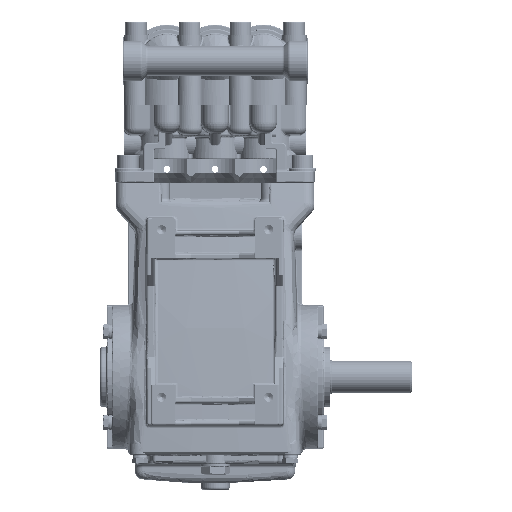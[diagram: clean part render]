
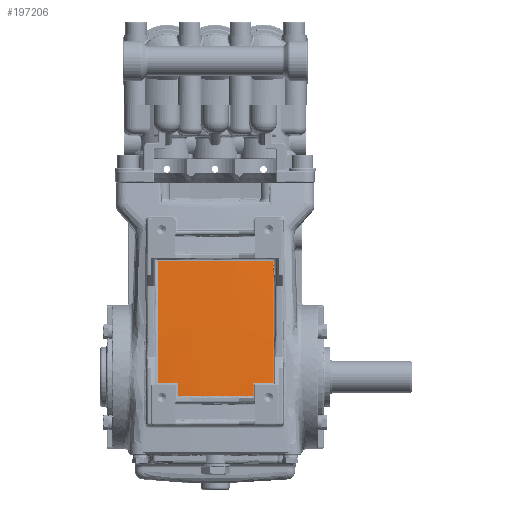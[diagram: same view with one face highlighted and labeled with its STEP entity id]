
A CAD part, front view. The second image highlights one B-rep face of the part: STEP entity #197206.
In plain terms, the highlighted spherical face has radius 1000 mm.
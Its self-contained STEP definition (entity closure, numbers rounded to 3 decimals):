
#61386 = EDGE_CURVE ( 'NONE', #67858, #68576, #101114, .T. ) ;
#61392 = EDGE_CURVE ( 'NONE', #67904, #67858, #101118, .T. ) ;
#61397 = EDGE_CURVE ( 'NONE', #68576, #68575, #101121, .T. ) ;
#61401 = EDGE_CURVE ( 'NONE', #68575, #68572, #101124, .T. ) ;
#61405 = EDGE_CURVE ( 'NONE', #68572, #68571, #101128, .T. ) ;
#61409 = EDGE_CURVE ( 'NONE', #68571, #68598, #101131, .T. ) ;
#61411 = EDGE_CURVE ( 'NONE', #68598, #68581, #101134, .T. ) ;
#61413 = EDGE_CURVE ( 'NONE', #68581, #67904, #101138, .T. ) ;
#67858 = VERTEX_POINT ( 'NONE', #195685 ) ;
#67904 = VERTEX_POINT ( 'NONE', #195722 ) ;
#68571 = VERTEX_POINT ( 'NONE', #198153 ) ;
#68572 = VERTEX_POINT ( 'NONE', #198155 ) ;
#68575 = VERTEX_POINT ( 'NONE', #198160 ) ;
#68576 = VERTEX_POINT ( 'NONE', #198162 ) ;
#68581 = VERTEX_POINT ( 'NONE', #198171 ) ;
#68598 = VERTEX_POINT ( 'NONE', #198201 ) ;
#68827 = ORIENTED_EDGE ( 'NONE', *, *, #61392, .T. ) ;
#68828 = ORIENTED_EDGE ( 'NONE', *, *, #61397, .T. ) ;
#68829 = ORIENTED_EDGE ( 'NONE', *, *, #61386, .T. ) ;
#68830 = ORIENTED_EDGE ( 'NONE', *, *, #61401, .T. ) ;
#68831 = ORIENTED_EDGE ( 'NONE', *, *, #61405, .T. ) ;
#68832 = ORIENTED_EDGE ( 'NONE', *, *, #61409, .T. ) ;
#68833 = ORIENTED_EDGE ( 'NONE', *, *, #61411, .T. ) ;
#68834 = ORIENTED_EDGE ( 'NONE', *, *, #61413, .T. ) ;
#72200 = AXIS2_PLACEMENT_3D ( 'NONE', #96840, #96842, #96844 ) ;
#72214 = FACE_OUTER_BOUND ( 'NONE', #241111, .T. ) ;
#72218 = SPHERICAL_SURFACE ( 'NONE', #72200, 1000. ) ;
#96840 = CARTESIAN_POINT ( 'NONE',  ( 0., 938.4, -238. ) ) ;
#96842 = DIRECTION ( 'NONE',  ( 0., 0.259, 0.966 ) ) ;
#96844 = DIRECTION ( 'NONE',  ( 0., -0.966, 0.259 ) ) ;
#101114 = CIRCLE ( 'NONE', #149855, 999.079 ) ;
#101118 = CIRCLE ( 'NONE', #149890, 996.047 ) ;
#101121 = CIRCLE ( 'NONE', #149889, 983.732 ) ;
#101124 = CIRCLE ( 'NONE', #149888, 999.079 ) ;
#101128 = CIRCLE ( 'NONE', #149887, 996.047 ) ;
#101131 = CIRCLE ( 'NONE', #149892, 999.609 ) ;
#101134 = CIRCLE ( 'NONE', #149894, 996.887 ) ;
#101138 = CIRCLE ( 'NONE', #149896, 999.609 ) ;
#149855 = AXIS2_PLACEMENT_3D ( 'NONE', #156364, #156365, #156366 ) ;
#149887 = AXIS2_PLACEMENT_3D ( 'NONE', #156376, #156377, #156378 ) ;
#149888 = AXIS2_PLACEMENT_3D ( 'NONE', #156373, #156374, #156375 ) ;
#149889 = AXIS2_PLACEMENT_3D ( 'NONE', #156370, #156371, #156372 ) ;
#149890 = AXIS2_PLACEMENT_3D ( 'NONE', #156367, #156368, #156369 ) ;
#149892 = AXIS2_PLACEMENT_3D ( 'NONE', #156379, #156380, #156381 ) ;
#149894 = AXIS2_PLACEMENT_3D ( 'NONE', #156382, #156383, #156384 ) ;
#149896 = AXIS2_PLACEMENT_3D ( 'NONE', #156385, #156386, #156387 ) ;
#156364 = CARTESIAN_POINT ( 'NONE',  ( 42.914, 938.4, -238. ) ) ;
#156365 = DIRECTION ( 'NONE',  ( -1., 0., 0. ) ) ;
#156366 = DIRECTION ( 'NONE',  ( 0., 0., 1. ) ) ;
#156367 = CARTESIAN_POINT ( 'NONE',  ( 0., 938.4, -149.178 ) ) ;
#156368 = DIRECTION ( 'NONE',  ( 0., 0., 1. ) ) ;
#156369 = DIRECTION ( 'NONE',  ( -1., 0., 0. ) ) ;
#156370 = CARTESIAN_POINT ( 'NONE',  ( 0., 938.4, -58.359 ) ) ;
#156371 = DIRECTION ( 'NONE',  ( 0., 0., -1. ) ) ;
#156372 = DIRECTION ( 'NONE',  ( -1., 0., 0. ) ) ;
#156373 = CARTESIAN_POINT ( 'NONE',  ( -42.914, 938.4, -238. ) ) ;
#156374 = DIRECTION ( 'NONE',  ( 1., 0., 0. ) ) ;
#156375 = DIRECTION ( 'NONE',  ( 0., 0., -1. ) ) ;
#156376 = CARTESIAN_POINT ( 'NONE',  ( 0., 938.4, -149.178 ) ) ;
#156377 = DIRECTION ( 'NONE',  ( 0., 0., 1. ) ) ;
#156378 = DIRECTION ( 'NONE',  ( -1., 0., 0. ) ) ;
#156379 = CARTESIAN_POINT ( 'NONE',  ( -27.944, 938.4, -238. ) ) ;
#156380 = DIRECTION ( 'NONE',  ( 1., 0., 0. ) ) ;
#156381 = DIRECTION ( 'NONE',  ( 0., -1., 0. ) ) ;
#156382 = CARTESIAN_POINT ( 'NONE',  ( 0., 938.4, -159.158 ) ) ;
#156383 = DIRECTION ( 'NONE',  ( 0., 0., 1. ) ) ;
#156384 = DIRECTION ( 'NONE',  ( -1., 0., 0. ) ) ;
#156385 = CARTESIAN_POINT ( 'NONE',  ( 27.944, 938.4, -238. ) ) ;
#156386 = DIRECTION ( 'NONE',  ( -1., 0., 0. ) ) ;
#156387 = DIRECTION ( 'NONE',  ( 0., 1., 0. ) ) ;
#195685 = CARTESIAN_POINT ( 'NONE',  ( 42.914, -56.723, -149.178 ) ) ;
#195722 = CARTESIAN_POINT ( 'NONE',  ( 27.944, -57.255, -149.178 ) ) ;
#197206 = ADVANCED_FACE ( 'NONE', ( #72214 ), #72218, .T. ) ;
#198153 = CARTESIAN_POINT ( 'NONE',  ( -27.944, -57.255, -149.178 ) ) ;
#198155 = CARTESIAN_POINT ( 'NONE',  ( -42.914, -56.723, -149.178 ) ) ;
#198160 = CARTESIAN_POINT ( 'NONE',  ( -42.914, -44.396, -58.359 ) ) ;
#198162 = CARTESIAN_POINT ( 'NONE',  ( 42.914, -44.396, -58.359 ) ) ;
#198171 = CARTESIAN_POINT ( 'NONE',  ( 27.944, -58.095, -159.158 ) ) ;
#198201 = CARTESIAN_POINT ( 'NONE',  ( -27.944, -58.095, -159.158 ) ) ;
#241111 = EDGE_LOOP ( 'NONE', ( #68827, #68829, #68828, #68830, #68831, #68832, #68833, #68834 ) ) ;
